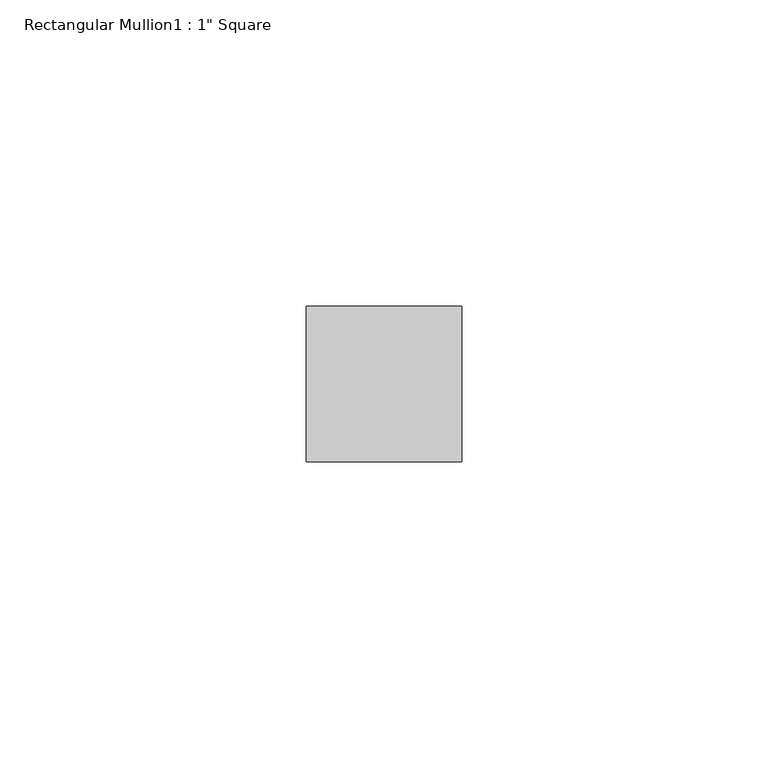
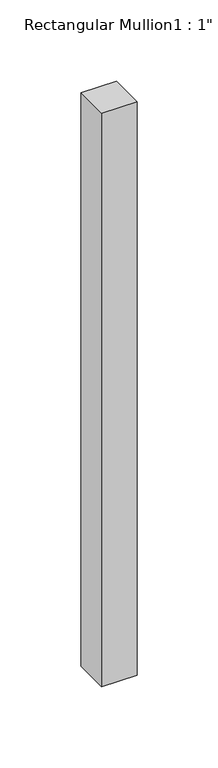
"""IFC4 building model written with IfcOpenShell, lengths in millimetres: member geometry."""

from ifc_helpers import new_model, si_unit, frame, origin, place, context, project, spatial, polyline, outline, extrude, source, transform, mapped, element, save


def member_f4e4bb89(model_context):
    return source(origin(), model_context, "Body", "SweptSolid", [
        extrude(outline(polyline([(0.0, -19.05), (0.0, -44.45), (-25.4, -44.45), (-25.4, -19.05), (0.0, -19.05)])), frame((0.0, 0.0, -431.8), z_axis=(0.0, 0.0, 1.0), x_axis=(1.0, 0.0, 0.0)), (0.0, 0.0, 1.0), 431.8),
    ])


if __name__ == "__main__":
    model = new_model("IFC4")
    model_context = context("Model", 3, world=origin())
    ifc_project = project(units=[si_unit("LENGTHUNIT", "METRE", prefix="MILLI")], contexts=[model_context])
    site = spatial("IfcSite", under=ifc_project)
    building = spatial("IfcBuilding", under=site)
    placement = place(None, origin())
    member_shape = member_f4e4bb89(model_context)
    element("IfcMember", 1, ObjectType="Rectangular Mullion1 : 1\" Square", at=placement, inside=building, context=model_context, shape_type="MappedRepresentation", body=[
        mapped(member_shape, transform((0.0, 0.0, 0.0), x_axis=(1.0, 0.0, 0.0), y_axis=(0.0, 1.0, 0.0), z_axis=(0.0, 0.0, 1.0))),
    ])
    save(model, "model.ifc")
